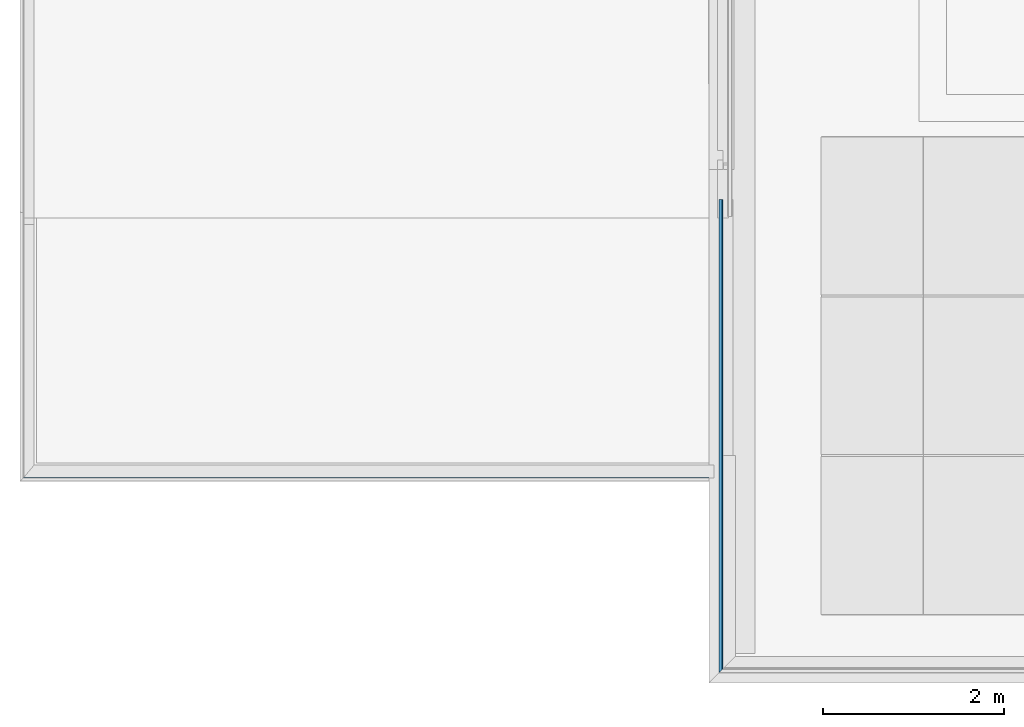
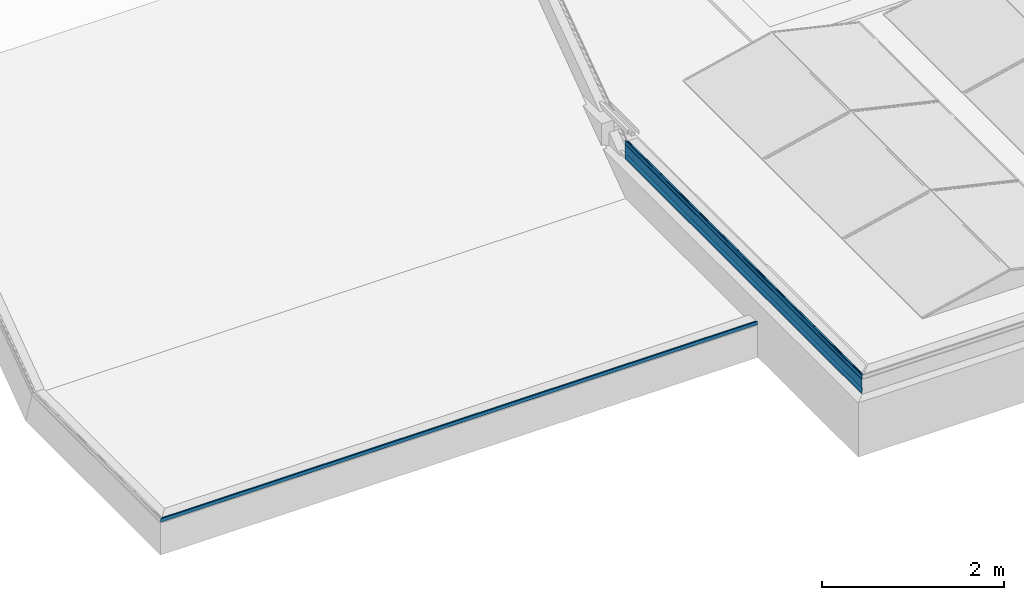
# One storey, part 18 of 63: 4 building element parts, 2 elements without a shape of their own.
"""IFC2X3 building model written with IfcOpenShell, lengths in millimetres."""

from ifc_helpers import new_model, entity, si_unit, converted_unit, derived_unit, money_unit, direction, frame, origin_with_axes, place, context, subcontext, project, spatial, faceted_brep, material, type_object, element, aggregate, save


model = new_model("IFC2X3")

# Units and contexts
model_context = context("Model", 3, precision=0.01, world=origin_with_axes(), true_north=direction((0.0, 1.0)))
body_context = subcontext(model_context, "Body", "Model", "MODEL_VIEW")
ifc_project = project(units=[si_unit("LENGTHUNIT", "METRE", prefix="MILLI"), si_unit("AREAUNIT", "SQUARE_METRE"), si_unit("VOLUMEUNIT", "CUBIC_METRE"), converted_unit("PLANEANGLEUNIT", "DEGREE", entity("IfcPlaneAngleMeasure", 0.0174532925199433), si_unit("PLANEANGLEUNIT", "RADIAN"), dimensions=[0, 0, 0, 0, 0, 0, 0]), money_unit("EUR"), converted_unit("TIMEUNIT", "Year", entity("IfcTimeMeasure", 31557600.0), si_unit("TIMEUNIT", "SECOND"), dimensions=[0, 0, 1, 0, 0, 0, 0]), si_unit("MASSUNIT", "GRAM", prefix="KILO"), si_unit("THERMODYNAMICTEMPERATUREUNIT", "DEGREE_CELSIUS"), si_unit("LUMINOUSINTENSITYUNIT", "LUMEN"), si_unit("ENERGYUNIT", "JOULE", prefix="MEGA"), derived_unit("THERMALCONDUCTANCEUNIT", [(si_unit("POWERUNIT", "WATT"), 1), (si_unit("LENGTHUNIT", "METRE"), -1), (si_unit("THERMODYNAMICTEMPERATUREUNIT", "KELVIN"), -1)]), derived_unit("SPECIFICHEATCAPACITYUNIT", [(si_unit("ENERGYUNIT", "JOULE"), 1), (si_unit("MASSUNIT", "GRAM", prefix="KILO"), -1), (si_unit("THERMODYNAMICTEMPERATUREUNIT", "KELVIN"), -1)]), derived_unit("MASSDENSITYUNIT", [(si_unit("MASSUNIT", "GRAM", prefix="KILO"), 1), (si_unit("VOLUMEUNIT", "CUBIC_METRE"), -1)])], contexts=[model_context])

# Site, building, storey
site_placement = place(None, origin_with_axes())
site = spatial("IfcSite", under=ifc_project, at=site_placement, Name="<site naam>", CompositionType="ELEMENT")
building_placement = place(site_placement, origin_with_axes())
building = spatial("IfcBuilding", under=site, at=building_placement, Name="<Naam gebouw>", CompositionType="ELEMENT")
storey_placement = place(building_placement, frame((0.0, 0.0, 12770.0), z_axis=(0.0, 0.0, 1.0), x_axis=(1.0, 0.0, 0.0)))
storey = spatial("IfcBuildingStorey", under=building, at=storey_placement, Name="04 4e verdieping", CompositionType="ELEMENT", Elevation=12770.0)

# Beam, building element parts
beam_type_1 = type_object("IfcBeamType", Name="Aluminium daktrim 45 x 250", PredefinedType="BEAM")
beam_1_placement = place(storey_placement, frame((11665.00000242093, 5004.102305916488, -14.59999999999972), z_axis=(0.0, 0.0, 1.0), x_axis=(-1.0, 0.0, 0.0)))
beam_1 = element("IfcBeam", 1, at=beam_1_placement, inside=storey, type_object=beam_type_1, Name="47_Balk_Aluminium", ObjectType="BEAM")
ifc_material = material(Name="aluminium")
building_element_part_1_placement = place(beam_1_placement, origin_with_axes())
building_element_part_1 = element("IfcBuildingElementPart", 2, at=building_element_part_1_placement, material=ifc_material, Name="aluminium", context=body_context, shape_type="Brep", body=[
    faceted_brep([(-121.4991945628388, 5207.603108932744, 294.0656451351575), (-122.2068758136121, 5206.895427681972, 293.7721760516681), (-122.2068758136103, 0.0, 293.7721760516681), (-121.4991945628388, 0.0, 294.0656451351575), (-110.9991946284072, 5218.103108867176, 294.0656451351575), (-110.2920878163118, 5218.810215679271, 293.7727519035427), (-109.9991945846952, 5219.103108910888, 293.0656450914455), (-109.9991945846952, 5219.103108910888, 250.0656451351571), (-110.2920878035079, 5218.810215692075, 249.3585383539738), (-110.9991945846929, 5218.10310891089, 249.0656451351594), (-111.4991731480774, 5217.603130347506, 249.1996073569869), (-117.6977781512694, 5211.404525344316, 252.7781690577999), (-117.9774779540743, 5211.124825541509, 253.1426342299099), (-117.9175736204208, 5211.184729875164, 253.598132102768), (-117.5531500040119, 5211.549153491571, 253.8778860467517), (-117.0976432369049, 5212.00466025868, 253.8180493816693), (-113.8976320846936, 5215.204671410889, 251.9718951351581), (-113.8976320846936, 5215.204671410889, 252.565645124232), (-113.7511854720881, 5215.351118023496, 252.9191985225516), (-113.3976320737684, 5215.704671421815, 253.0656451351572), (-113.1984133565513, 5215.903890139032, 253.0656451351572), (-112.8448599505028, 5216.257443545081, 252.9191985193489), (-112.6984133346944, 5216.403890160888, 252.5656451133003), (-112.6984133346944, 5216.403890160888, 251.278535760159), (-111.9489165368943, 5217.15338695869, 250.8452329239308), (-111.6116899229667, 5217.490613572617, 250.7856033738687), (-111.3150643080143, 5217.78723918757, 250.9567486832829), (-111.1979101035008, 5217.904393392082, 251.278544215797), (-111.1984133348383, 5217.903890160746, 281.0656535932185), (-111.3448629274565, 5217.757440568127, 281.419201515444), (-111.6984133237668, 5217.403890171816, 281.5656451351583), (-112.1984133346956, 5216.903890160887, 281.5656451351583), (-112.5519667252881, 5216.550336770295, 281.4191985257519), (-112.6984133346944, 5216.403890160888, 281.0656451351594), (-112.6984133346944, 5216.403890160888, 279.5656451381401), (-112.8448599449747, 5216.257443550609, 279.212091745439), (-113.1984133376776, 5215.903890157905, 279.065645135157), (-114.9718508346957, 5214.130452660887, 279.065645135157), (-120.1773366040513, 5208.924966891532, 275.7461395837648), (-120.3116945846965, 5208.790608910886, 275.4250201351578), (-120.5695070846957, 5208.532796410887, 275.3156451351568), (-120.889819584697, 5208.212483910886, 275.448457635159), (-121.5401955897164, 5207.562107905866, 275.2060759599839), (-121.694507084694, 5207.407796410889, 274.897676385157), (-121.9640383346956, 5207.138265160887, 274.8078326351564), (-122.2726320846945, 5206.829671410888, 274.9640826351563), (-128.1981216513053, 5200.904181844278, 274.066030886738), (-154.6486035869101, 5174.453699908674, 274.0656451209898), (-154.8951277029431, 5174.207175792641, 274.1677553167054), (-154.9972414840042, 5174.10506201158, 274.4142779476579), (-154.8947842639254, 5174.207519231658, 274.6611444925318), (-154.6476320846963, 5174.454671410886, 274.7629107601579), (-149.9991945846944, 5179.103108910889, 275.2648638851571), (-149.698413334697, 5179.403890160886, 275.565645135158), (-147.2999758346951, 5181.802327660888, 275.565645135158), (-146.9991945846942, 5182.103108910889, 275.2648638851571), (-143.9991945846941, 5185.103108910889, 275.2648638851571), (-143.6984133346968, 5185.403890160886, 275.565645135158), (-141.2999758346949, 5187.802327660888, 275.565645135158), (-140.9991945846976, 5188.103108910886, 275.2648638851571), (-137.9991945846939, 5191.103108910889, 275.2648638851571), (-137.6984133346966, 5191.403890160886, 275.565645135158), (-135.2999758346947, 5193.802327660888, 275.565645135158), (-134.9991945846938, 5194.103108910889, 275.2648638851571), (-131.9991945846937, 5197.103108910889, 275.2648638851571), (-131.6984133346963, 5197.403890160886, 275.565645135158), (-129.2999758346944, 5199.802327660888, 275.565645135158), (-128.9991945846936, 5200.103108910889, 275.2648638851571), (-128.1984107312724, 5200.903892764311, 275.2648638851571), (-120.0158638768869, 5209.086439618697, 277.1388822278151), (-113.4645529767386, 5215.637750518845, 282.3873432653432), (-112.6841977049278, 5216.418105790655, 282.7641787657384), (-112.19700300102, 5216.905300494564, 282.7648658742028), (-111.4908083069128, 5217.611495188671, 283.0582564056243), (-111.1984133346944, 5217.903890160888, 283.7648638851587), (-111.1984133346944, 5217.903890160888, 292.3664263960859), (-111.3448599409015, 5217.757443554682, 292.719979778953), (-111.6984133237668, 5217.403890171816, 292.8664263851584), (-120.7999758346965, 5208.302327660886, 292.8664263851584), (-121.153529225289, 5207.948774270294, 292.7199797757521), (-121.2999758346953, 5207.802327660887, 292.3664263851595), (-121.2999758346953, 5207.802327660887, 290.6652544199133), (-121.4748532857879, 5207.627450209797, 290.2428198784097), (-121.897145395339, 5207.205158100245, 290.0675987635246), (-122.3197220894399, 5206.782581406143, 290.2421324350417), (-122.4952867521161, 5206.607016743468, 290.6642818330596), (-122.4991919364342, 5206.60311155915, 293.0640177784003), (-122.4991919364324, 0.0, 293.0640177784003), (-122.4952867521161, 0.0, 290.6642818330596), (-122.3197220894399, 0.0, 290.2421324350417), (-121.8971453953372, 0.0, 290.0675987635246), (-121.4748532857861, 0.0, 290.2428198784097), (-121.2999758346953, 0.0, 290.6652544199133), (-121.2999758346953, 0.0, 292.3664263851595), (-121.153529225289, 0.0, 292.7199797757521), (-120.7999758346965, 0.0, 292.8664263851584), (-111.6984133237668, 0.0, 292.8664263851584), (-111.3448599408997, 0.0, 292.719979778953), (-111.1984133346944, 0.0, 292.3664263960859), (-111.1984133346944, 0.0, 283.7648638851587), (-111.490808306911, 0.0, 283.0582564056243), (-112.1970030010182, 0.0, 282.7648658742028), (-112.6841977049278, 0.0, 282.7641787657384), (-113.4645529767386, 0.0, 282.3873432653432), (-120.0158638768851, 0.0, 277.1388822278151), (-128.1984107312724, 0.0, 275.2648638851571), (-128.9991945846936, 0.0, 275.2648638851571), (-129.2999758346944, 0.0, 275.565645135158), (-131.6984133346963, 0.0, 275.565645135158), (-131.9991945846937, 0.0, 275.2648638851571), (-134.9991945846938, 0.0, 275.2648638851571), (-135.2999758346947, 0.0, 275.565645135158), (-137.6984133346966, 0.0, 275.565645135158), (-137.9991945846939, 0.0, 275.2648638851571), (-140.9991945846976, 0.0, 275.2648638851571), (-141.2999758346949, 0.0, 275.565645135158), (-143.6984133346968, 0.0, 275.565645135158), (-143.9991945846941, 0.0, 275.2648638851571), (-146.9991945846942, 0.0, 275.2648638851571), (-147.2999758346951, 0.0, 275.565645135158), (-149.698413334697, 0.0, 275.565645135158), (-149.9991945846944, 0.0, 275.2648638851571), (-154.6476320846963, 0.0, 274.7629107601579), (-154.8947842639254, 0.0, 274.6611444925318), (-154.9972414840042, 0.0, 274.4142779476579), (-154.8951277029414, 0.0, 274.1677553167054), (-154.6486035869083, 0.0, 274.0656451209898), (-128.1981216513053, 0.0, 274.066030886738), (-122.2726320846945, 0.0, 274.9640826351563), (-121.9640383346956, 0.0, 274.8078326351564), (-121.694507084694, 0.0, 274.897676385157), (-121.5401955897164, 0.0, 275.2060759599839), (-120.889819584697, 0.0, 275.448457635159), (-120.5695070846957, 0.0, 275.3156451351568), (-120.3116945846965, 0.0, 275.4250201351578), (-120.1773366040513, 0.0, 275.7461395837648), (-114.9718508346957, 0.0, 279.065645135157), (-113.1984133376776, 0.0, 279.065645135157), (-112.8448599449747, 0.0, 279.212091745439), (-112.6984133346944, 0.0, 279.5656451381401), (-112.6984133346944, 0.0, 281.0656451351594), (-112.5519667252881, 0.0, 281.4191985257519), (-112.1984133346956, 0.0, 281.5656451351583), (-111.6984133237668, 0.0, 281.5656451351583), (-111.3448629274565, 0.0, 281.419201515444), (-111.1984133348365, 0.0, 281.0656535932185), (-111.1979101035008, 0.0, 251.278544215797), (-111.3150643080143, 0.0, 250.9567486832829), (-111.6116899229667, 0.0, 250.7856033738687), (-111.9489165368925, 0.0, 250.8452329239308), (-112.6984133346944, 0.0, 251.278535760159), (-112.6984133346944, 0.0, 252.5656451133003), (-112.8448599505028, 0.0, 252.9191985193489), (-113.1984133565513, 0.0, 253.0656451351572), (-113.3976320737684, 0.0, 253.0656451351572), (-113.7511854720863, 0.0, 252.9191985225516), (-113.8976320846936, 0.0, 252.565645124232), (-113.8976320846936, 0.0, 251.9718951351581), (-117.0976432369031, 0.0, 253.8180493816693), (-117.5531500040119, 0.0, 253.8778860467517), (-117.917573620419, 0.0, 253.598132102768), (-117.9774779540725, 0.0, 253.1426342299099), (-117.6977781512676, 0.0, 252.7781690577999), (-111.4991731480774, 0.0, 249.1996073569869), (-110.9991945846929, 0.0, 249.0656451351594), (-110.2920878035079, 0.0, 249.3585383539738), (-109.9991945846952, 0.0, 250.0656451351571), (-109.9991945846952, 0.0, 293.0656450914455), (-110.2920878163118, 0.0, 293.7727519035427), (-110.9991946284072, 0.0, 294.0656451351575)], [[[0, 1, 2, 3]], [[0, 4, 5, 6, 7, 8, 9, 10, 11, 12, 13, 14, 15, 16, 17, 18, 19, 20, 21, 22, 23, 24, 25, 26, 27, 28, 29, 30, 31, 32, 33, 34, 35, 36, 37, 38, 39, 40, 41, 42, 43, 44, 45, 46, 47, 48, 49, 50, 51, 52, 53, 54, 55, 56, 57, 58, 59, 60, 61, 62, 63, 64, 65, 66, 67, 68, 69, 70, 71, 72, 73, 74, 75, 76, 77, 78, 79, 80, 81, 82, 83, 84, 85, 86, 1]], [[1, 86, 87, 2]], [[3, 2, 87, 88, 89, 90, 91, 92, 93, 94, 95, 96, 97, 98, 99, 100, 101, 102, 103, 104, 105, 106, 107, 108, 109, 110, 111, 112, 113, 114, 115, 116, 117, 118, 119, 120, 121, 122, 123, 124, 125, 126, 127, 128, 129, 130, 131, 132, 133, 134, 135, 136, 137, 138, 139, 140, 141, 142, 143, 144, 145, 146, 147, 148, 149, 150, 151, 152, 153, 154, 155, 156, 157, 158, 159, 160, 161, 162, 163, 164, 165, 166, 167, 168, 169]], [[4, 0, 3, 169]], [[5, 4, 169, 168]], [[6, 5, 168, 167]], [[7, 6, 167, 166]], [[8, 7, 166, 165]], [[9, 8, 165, 164]], [[10, 9, 164, 163]], [[11, 10, 163, 162]], [[12, 11, 162, 161]], [[13, 12, 161, 160]], [[14, 13, 160, 159]], [[15, 14, 159, 158]], [[16, 15, 158, 157]], [[17, 16, 157, 156]], [[18, 17, 156, 155]], [[19, 18, 155, 154]], [[20, 19, 154, 153]], [[21, 20, 153, 152]], [[22, 21, 152, 151]], [[23, 22, 151, 150]], [[24, 23, 150, 149]], [[25, 24, 149, 148]], [[26, 25, 148, 147]], [[27, 26, 147, 146]], [[28, 27, 146, 145]], [[29, 28, 145, 144]], [[30, 29, 144, 143]], [[31, 30, 143, 142]], [[32, 31, 142, 141]], [[33, 32, 141, 140]], [[34, 33, 140, 139]], [[35, 34, 139, 138]], [[36, 35, 138, 137]], [[37, 36, 137, 136]], [[38, 37, 136, 135]], [[39, 38, 135, 134]], [[40, 39, 134, 133]], [[41, 40, 133, 132]], [[42, 41, 132, 131]], [[43, 42, 131, 130]], [[44, 43, 130, 129]], [[45, 44, 129, 128]], [[46, 45, 128, 127]], [[47, 46, 127, 126]], [[48, 47, 126, 125]], [[49, 48, 125, 124]], [[50, 49, 124, 123]], [[51, 50, 123, 122]], [[52, 51, 122, 121]], [[53, 52, 121, 120]], [[54, 53, 120, 119]], [[55, 54, 119, 118]], [[56, 55, 118, 117]], [[57, 56, 117, 116]], [[58, 57, 116, 115]], [[59, 58, 115, 114]], [[60, 59, 114, 113]], [[61, 60, 113, 112]], [[62, 61, 112, 111]], [[63, 62, 111, 110]], [[64, 63, 110, 109]], [[65, 64, 109, 108]], [[66, 65, 108, 107]], [[67, 66, 107, 106]], [[68, 67, 106, 105]], [[69, 68, 105, 104]], [[70, 69, 104, 103]], [[71, 70, 103, 102]], [[72, 71, 102, 101]], [[73, 72, 101, 100]], [[74, 73, 100, 99]], [[75, 74, 99, 98]], [[76, 75, 98, 97]], [[77, 76, 97, 96]], [[78, 77, 96, 95]], [[79, 78, 95, 94]], [[80, 79, 94, 93]], [[81, 80, 93, 92]], [[82, 81, 92, 91]], [[83, 82, 91, 90]], [[84, 83, 90, 89]], [[85, 84, 89, 88]], [[86, 85, 88, 87]]]),
])
building_element_part_2_placement = place(beam_1_placement, origin_with_axes())
building_element_part_2 = element("IfcBuildingElementPart", 3, at=building_element_part_2_placement, material=ifc_material, Name="aluminium", context=body_context, shape_type="Brep", body=[
    faceted_brep([(-143.0058874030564, 5186.096416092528, 241.8720983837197), (-111.1979101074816, 5217.904393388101, 237.7678423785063), (-111.1979101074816, 0.0, 237.7678423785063), (-143.0058874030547, 0.0, 241.8720983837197), (-143.0058874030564, 5186.096416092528, 253.0654661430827), (-141.8058874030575, 5187.296416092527, 253.0654661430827), (-141.8058874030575, 5187.296416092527, 243.1686919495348), (-110.0058874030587, 5219.096416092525, 239.0654661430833), (-110.0058874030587, 5219.096416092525, 44.56563661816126), (-115.205887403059, 5213.896416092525, 44.56563661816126), (-115.205887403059, 5213.896416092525, 61.56563661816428), (-114.0058874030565, 5215.096416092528, 61.56563661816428), (-114.0058874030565, 5215.096416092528, 45.7656366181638), (-111.1979101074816, 5217.904393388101, 45.7656366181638), (-111.1979101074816, 0.0, 45.7656366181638), (-114.0058874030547, 0.0, 45.7656366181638), (-114.0058874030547, 0.0, 61.56563661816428), (-115.2058874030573, 0.0, 61.56563661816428), (-115.2058874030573, 0.0, 44.56563661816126), (-110.0058874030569, 0.0, 44.56563661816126), (-110.0058874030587, 0.0, 239.0654661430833), (-141.8058874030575, 0.0, 243.1686919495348), (-141.8058874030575, 0.0, 253.0654661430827), (-143.0058874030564, 0.0, 253.0654661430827)], [[[0, 1, 2, 3]], [[0, 4, 5, 6, 7, 8, 9, 10, 11, 12, 13, 1]], [[1, 13, 14, 2]], [[3, 2, 14, 15, 16, 17, 18, 19, 20, 21, 22, 23]], [[4, 0, 3, 23]], [[5, 4, 23, 22]], [[6, 5, 22, 21]], [[7, 6, 21, 20]], [[8, 7, 20, 19]], [[9, 8, 19, 18]], [[10, 9, 18, 17]], [[11, 10, 17, 16]], [[12, 11, 16, 15]], [[13, 12, 15, 14]]]),
])
building_element_part_3_placement = place(beam_1_placement, origin_with_axes())
building_element_part_3 = element("IfcBuildingElementPart", 4, at=building_element_part_3_placement, material=ifc_material, Name="aluminium", context=body_context, shape_type="Brep", body=[
    faceted_brep([(-112.0058939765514, 5217.096409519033, 49.56563034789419), (-112.0058939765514, 5217.096409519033, 69.56564503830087), (-112.0058939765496, 0.0, 69.56564503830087), (-112.0058939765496, 0.0, 49.56563034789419), (-113.2058874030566, 5215.896416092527, 49.56563034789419), (-113.2058874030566, 5215.896416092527, 68.55872432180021), (-145.0058874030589, 5184.096416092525, 74.16592230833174), (-145.0058874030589, 5184.096416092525, 89.56564503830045), (-143.8058874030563, 5185.296416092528, 89.56564503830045), (-143.8058874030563, 5185.296416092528, 75.17284186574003), (-143.8058874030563, 0.0, 75.17284186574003), (-143.8058874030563, 0.0, 89.56564503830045), (-145.0058874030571, 0.0, 89.56564503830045), (-145.0058874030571, 0.0, 74.16592230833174), (-113.2058874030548, 0.0, 68.55872432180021), (-113.2058874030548, 0.0, 49.56563034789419)], [[[0, 1, 2, 3]], [[0, 4, 5, 6, 7, 8, 9, 1]], [[1, 9, 10, 2]], [[3, 2, 10, 11, 12, 13, 14, 15]], [[4, 0, 3, 15]], [[5, 4, 15, 14]], [[6, 5, 14, 13]], [[7, 6, 13, 12]], [[8, 7, 12, 11]], [[9, 8, 11, 10]]]),
])
aggregate(beam_1, [building_element_part_1, building_element_part_2, building_element_part_3])

# Beam, building element part
beam_type_2 = type_object("IfcBeamType", Name="Aluminium daktrim (hoofdtrap) 45 x 485", PredefinedType="BEAM")
beam_2_placement = place(storey_placement, frame((3961.493419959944, 1784.999254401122, -523.9999999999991), z_axis=(0.0, 0.0, 1.0), x_axis=(0.0, -1.0, 0.0)))
beam_2 = element("IfcBeam", 5, at=beam_2_placement, inside=storey, type_object=beam_type_2, Name="47_Balk_Aluminium", ObjectType="BEAM")
building_element_part_4_placement = place(beam_2_placement, origin_with_axes())
building_element_part_4 = element("IfcBuildingElementPart", 6, at=building_element_part_4_placement, material=ifc_material, Name="aluminium", context=body_context, shape_type="Brep", body=[
    faceted_brep([(-121.499194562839, 7703.506582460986, 294.0656451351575), (-122.2068758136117, 7703.506582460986, 293.7721760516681), (-122.2068758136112, 122.2068758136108, 293.7721760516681), (-121.4991945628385, 121.4991945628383, 294.0656451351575), (-110.9991946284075, 7703.506582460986, 294.0656451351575), (-110.2920878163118, 7703.506582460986, 293.7727519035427), (-109.9991945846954, 7703.506582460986, 293.0656450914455), (-109.9991945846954, 7703.506582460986, 250.0656451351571), (-110.2920878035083, 7703.506582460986, 249.3585383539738), (-110.9991945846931, 7703.506582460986, 249.0656451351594), (-111.4991731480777, 7703.506582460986, 249.1996073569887), (-117.6977781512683, 7703.506582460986, 252.7781690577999), (-117.9774779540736, 7703.506582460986, 253.1426342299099), (-117.9175736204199, 7703.506582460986, 253.598132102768), (-117.5531500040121, 7703.506582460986, 253.8778860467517), (-117.0976432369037, 7703.506582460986, 253.8180493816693), (-113.8976320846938, 7703.506582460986, 251.9718951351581), (-113.8976320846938, 7703.506582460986, 252.5656451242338), (-113.7511854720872, 7703.506582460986, 252.9191985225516), (-113.3976320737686, 7703.506582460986, 253.0656451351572), (-113.1984133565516, 7703.506582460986, 253.0656451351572), (-112.8448599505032, 7703.506582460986, 252.9191985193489), (-112.6984133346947, 7703.506582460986, 252.5656451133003), (-112.6984133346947, 7703.506582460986, 251.278535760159), (-111.9489165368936, 7703.506582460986, 250.8452329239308), (-111.6116899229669, 7703.506582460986, 250.7856033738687), (-111.3150643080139, 7703.506582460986, 250.9567486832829), (-111.1979101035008, 7703.506582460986, 251.278544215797), (-111.1984133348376, 7703.506582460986, 281.0656535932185), (-111.3448629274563, 7703.506582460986, 281.419201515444), (-111.6984133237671, 7703.506582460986, 281.5656451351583), (-112.1984133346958, 7703.506582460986, 281.5656451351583), (-112.5519667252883, 7703.506582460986, 281.4191985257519), (-112.6984133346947, 7703.506582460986, 281.0656451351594), (-112.6984133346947, 7703.506582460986, 279.5656451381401), (-112.8448599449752, 7703.506582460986, 279.212091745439), (-113.1984133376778, 7703.506582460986, 279.065645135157), (-114.971850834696, 7703.506582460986, 279.065645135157), (-120.1773366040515, 7703.506582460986, 275.7461395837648), (-120.3116945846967, 7703.506582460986, 275.4250201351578), (-120.5695070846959, 7703.506582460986, 275.3156451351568), (-120.8898195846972, 7703.506582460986, 275.448457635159), (-121.5401955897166, 7703.506582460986, 275.2060759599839), (-121.6945070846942, 7703.506582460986, 274.897676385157), (-121.9640383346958, 7703.506582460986, 274.8078326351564), (-122.2726320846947, 7703.506582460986, 274.9640826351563), (-128.1981216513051, 7703.506582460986, 274.066030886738), (-154.6486035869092, 7703.506582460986, 274.0656451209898), (-154.8951277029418, 7703.506582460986, 274.1677553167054), (-154.9972414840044, 7703.506582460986, 274.4142779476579), (-154.8947842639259, 7703.506582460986, 274.6611444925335), (-154.6476320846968, 7703.506582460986, 274.7629107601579), (-149.9991945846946, 7703.506582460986, 275.2648638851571), (-149.6984133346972, 7703.506582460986, 275.565645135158), (-147.2999758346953, 7703.506582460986, 275.565645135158), (-146.9991945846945, 7703.506582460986, 275.2648638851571), (-143.9991945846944, 7703.506582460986, 275.2648638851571), (-143.698413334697, 7703.506582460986, 275.565645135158), (-141.2999758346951, 7703.506582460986, 275.565645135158), (-140.9991945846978, 7703.506582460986, 275.2648638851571), (-137.9991945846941, 7703.506582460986, 275.2648638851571), (-137.6984133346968, 7703.506582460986, 275.565645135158), (-135.2999758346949, 7703.506582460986, 275.565645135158), (-134.999194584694, 7703.506582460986, 275.2648638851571), (-131.9991945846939, 7703.506582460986, 275.2648638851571), (-131.6984133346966, 7703.506582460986, 275.565645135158), (-129.2999758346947, 7703.506582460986, 275.565645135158), (-128.9991945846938, 7703.506582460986, 275.2648638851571), (-128.1984107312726, 7703.506582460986, 275.2648638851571), (-120.0158638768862, 7703.506582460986, 277.1388822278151), (-113.4645529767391, 7703.506582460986, 282.3873432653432), (-112.6841977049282, 7703.506582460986, 282.7641787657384), (-112.1970030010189, 7703.506582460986, 282.7648658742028), (-111.4908083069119, 7703.506582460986, 283.0582564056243), (-111.1984133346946, 7703.506582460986, 283.7648638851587), (-111.1984133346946, 7703.506582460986, 292.3664263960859), (-111.3448599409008, 7703.506582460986, 292.719979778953), (-111.6984133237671, 7703.506582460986, 292.8664263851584), (-120.7999758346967, 7703.506582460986, 292.8664263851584), (-121.1535292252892, 7703.506582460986, 292.7199797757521), (-121.2999758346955, 7703.506582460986, 292.3664263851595), (-121.2999758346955, 7703.506582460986, 290.6652544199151), (-121.4748532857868, 7703.506582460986, 290.2428198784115), (-121.8971453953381, 7703.506582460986, 290.0675987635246), (-122.3197220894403, 7703.506582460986, 290.2421324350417), (-122.4952867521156, 7703.506582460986, 290.6642818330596), (-122.4991919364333, 7703.506582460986, 293.0640177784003), (-122.4991919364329, 122.4991919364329, 293.0640177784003), (-122.4952867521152, 122.4952867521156, 290.6642818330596), (-122.3197220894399, 122.3197220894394, 290.2421324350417), (-121.8971453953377, 121.8971453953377, 290.0675987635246), (-121.4748532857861, 121.4748532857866, 290.2428198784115), (-121.2999758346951, 121.2999758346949, 290.6652544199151), (-121.2999758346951, 121.2999758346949, 292.3664263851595), (-121.1535292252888, 121.1535292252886, 292.7199797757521), (-120.7999758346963, 120.799975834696, 292.8664263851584), (-111.6984133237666, 111.6984133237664, 292.8664263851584), (-111.3448599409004, 111.3448599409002, 292.719979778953), (-111.1984133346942, 111.1984133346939, 292.3664263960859), (-111.1984133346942, 111.1984133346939, 283.7648638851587), (-111.4908083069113, 111.4908083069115, 283.0582564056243), (-112.1970030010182, 112.1970030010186, 282.7648658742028), (-112.6841977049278, 112.6841977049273, 282.7641787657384), (-113.4645529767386, 113.4645529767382, 282.3873432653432), (-120.0158638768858, 120.0158638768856, 277.1388822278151), (-128.1984107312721, 128.1984107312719, 275.2648638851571), (-128.9991945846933, 128.9991945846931, 275.2648638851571), (-129.2999758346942, 129.299975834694, 275.565645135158), (-131.6984133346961, 131.6984133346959, 275.565645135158), (-131.9991945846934, 131.9991945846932, 275.2648638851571), (-134.9991945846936, 134.9991945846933, 275.2648638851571), (-135.2999758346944, 135.2999758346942, 275.565645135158), (-137.6984133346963, 137.6984133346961, 275.565645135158), (-137.9991945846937, 137.9991945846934, 275.2648638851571), (-140.9991945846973, 140.9991945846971, 275.2648638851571), (-141.2999758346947, 141.2999758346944, 275.565645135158), (-143.6984133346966, 143.6984133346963, 275.565645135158), (-143.9991945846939, 143.9991945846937, 275.2648638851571), (-146.999194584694, 146.9991945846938, 275.2648638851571), (-147.2999758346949, 147.2999758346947, 275.565645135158), (-149.6984133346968, 149.6984133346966, 275.565645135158), (-149.9991945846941, 149.9991945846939, 275.2648638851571), (-154.6476320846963, 154.6476320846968, 274.7629107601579), (-154.8947842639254, 154.8947842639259, 274.6611444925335), (-154.997241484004, 154.9972414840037, 274.4142779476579), (-154.8951277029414, 154.8951277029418, 274.1677553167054), (-154.6486035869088, 154.6486035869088, 274.0656451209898), (-128.1981216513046, 128.1981216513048, 274.066030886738), (-122.2726320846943, 122.2726320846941, 274.9640826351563), (-121.9640383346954, 121.9640383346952, 274.8078326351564), (-121.6945070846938, 121.6945070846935, 274.897676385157), (-121.5401955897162, 121.540195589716, 275.2060759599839), (-120.8898195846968, 120.8898195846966, 275.448457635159), (-120.5695070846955, 120.5695070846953, 275.3156451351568), (-120.3116945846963, 120.311694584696, 275.4250201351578), (-120.177336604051, 120.1773366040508, 275.7461395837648), (-114.9718508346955, 114.9718508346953, 279.065645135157), (-113.1984133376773, 113.1984133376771, 279.065645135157), (-112.8448599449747, 112.8448599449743, 279.212091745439), (-112.6984133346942, 112.698413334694, 279.5656451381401), (-112.6984133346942, 112.698413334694, 281.0656451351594), (-112.5519667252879, 112.5519667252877, 281.4191985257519), (-112.1984133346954, 112.1984133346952, 281.5656451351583), (-111.6984133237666, 111.6984133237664, 281.5656451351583), (-111.3448629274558, 111.344862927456, 281.419201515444), (-111.1984133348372, 111.1984133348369, 281.0656535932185), (-111.1979101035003, 111.1979101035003, 251.278544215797), (-111.3150643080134, 111.315064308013, 250.9567486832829), (-111.6116899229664, 111.6116899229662, 250.7856033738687), (-111.9489165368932, 111.948916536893, 250.8452329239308), (-112.6984133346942, 112.698413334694, 251.278535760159), (-112.6984133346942, 112.698413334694, 252.5656451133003), (-112.8448599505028, 112.8448599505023, 252.9191985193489), (-113.1984133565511, 113.1984133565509, 253.0656451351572), (-113.3976320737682, 113.397632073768, 253.0656451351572), (-113.7511854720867, 113.7511854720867, 252.9191985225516), (-113.8976320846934, 113.8976320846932, 252.5656451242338), (-113.8976320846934, 113.8976320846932, 251.9718951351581), (-117.0976432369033, 117.0976432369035, 253.8180493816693), (-117.5531500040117, 117.5531500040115, 253.8778860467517), (-117.9175736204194, 117.9175736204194, 253.598132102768), (-117.9774779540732, 117.977477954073, 253.1426342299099), (-117.6977781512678, 117.697778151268, 252.7781690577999), (-111.4991731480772, 111.499173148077, 249.1996073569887), (-110.9991945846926, 110.9991945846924, 249.0656451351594), (-110.2920878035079, 110.2920878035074, 249.3585383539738), (-109.999194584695, 109.9991945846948, 250.0656451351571), (-109.999194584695, 109.9991945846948, 293.0656450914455), (-110.2920878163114, 110.2920878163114, 293.7727519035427), (-110.999194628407, 110.9991946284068, 294.0656451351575)], [[[0, 1, 2, 3]], [[0, 4, 5, 6, 7, 8, 9, 10, 11, 12, 13, 14, 15, 16, 17, 18, 19, 20, 21, 22, 23, 24, 25, 26, 27, 28, 29, 30, 31, 32, 33, 34, 35, 36, 37, 38, 39, 40, 41, 42, 43, 44, 45, 46, 47, 48, 49, 50, 51, 52, 53, 54, 55, 56, 57, 58, 59, 60, 61, 62, 63, 64, 65, 66, 67, 68, 69, 70, 71, 72, 73, 74, 75, 76, 77, 78, 79, 80, 81, 82, 83, 84, 85, 86, 1]], [[1, 86, 87, 2]], [[3, 2, 87, 88, 89, 90, 91, 92, 93, 94, 95, 96, 97, 98, 99, 100, 101, 102, 103, 104, 105, 106, 107, 108, 109, 110, 111, 112, 113, 114, 115, 116, 117, 118, 119, 120, 121, 122, 123, 124, 125, 126, 127, 128, 129, 130, 131, 132, 133, 134, 135, 136, 137, 138, 139, 140, 141, 142, 143, 144, 145, 146, 147, 148, 149, 150, 151, 152, 153, 154, 155, 156, 157, 158, 159, 160, 161, 162, 163, 164, 165, 166, 167, 168, 169]], [[4, 0, 3, 169]], [[5, 4, 169, 168]], [[6, 5, 168, 167]], [[7, 6, 167, 166]], [[8, 7, 166, 165]], [[9, 8, 165, 164]], [[10, 9, 164, 163]], [[11, 10, 163, 162]], [[12, 11, 162, 161]], [[13, 12, 161, 160]], [[14, 13, 160, 159]], [[15, 14, 159, 158]], [[16, 15, 158, 157]], [[17, 16, 157, 156]], [[18, 17, 156, 155]], [[19, 18, 155, 154]], [[20, 19, 154, 153]], [[21, 20, 153, 152]], [[22, 21, 152, 151]], [[23, 22, 151, 150]], [[24, 23, 150, 149]], [[25, 24, 149, 148]], [[26, 25, 148, 147]], [[27, 26, 147, 146]], [[28, 27, 146, 145]], [[29, 28, 145, 144]], [[30, 29, 144, 143]], [[31, 30, 143, 142]], [[32, 31, 142, 141]], [[33, 32, 141, 140]], [[34, 33, 140, 139]], [[35, 34, 139, 138]], [[36, 35, 138, 137]], [[37, 36, 137, 136]], [[38, 37, 136, 135]], [[39, 38, 135, 134]], [[40, 39, 134, 133]], [[41, 40, 133, 132]], [[42, 41, 132, 131]], [[43, 42, 131, 130]], [[44, 43, 130, 129]], [[45, 44, 129, 128]], [[46, 45, 128, 127]], [[47, 46, 127, 126]], [[48, 47, 126, 125]], [[49, 48, 125, 124]], [[50, 49, 124, 123]], [[51, 50, 123, 122]], [[52, 51, 122, 121]], [[53, 52, 121, 120]], [[54, 53, 120, 119]], [[55, 54, 119, 118]], [[56, 55, 118, 117]], [[57, 56, 117, 116]], [[58, 57, 116, 115]], [[59, 58, 115, 114]], [[60, 59, 114, 113]], [[61, 60, 113, 112]], [[62, 61, 112, 111]], [[63, 62, 111, 110]], [[64, 63, 110, 109]], [[65, 64, 109, 108]], [[66, 65, 108, 107]], [[67, 66, 107, 106]], [[68, 67, 106, 105]], [[69, 68, 105, 104]], [[70, 69, 104, 103]], [[71, 70, 103, 102]], [[72, 71, 102, 101]], [[73, 72, 101, 100]], [[74, 73, 100, 99]], [[75, 74, 99, 98]], [[76, 75, 98, 97]], [[77, 76, 97, 96]], [[78, 77, 96, 95]], [[79, 78, 95, 94]], [[80, 79, 94, 93]], [[81, 80, 93, 92]], [[82, 81, 92, 91]], [[83, 82, 91, 90]], [[84, 83, 90, 89]], [[85, 84, 89, 88]], [[86, 85, 88, 87]]]),
])
aggregate(beam_2, [building_element_part_4])

save(model, "model.ifc")
